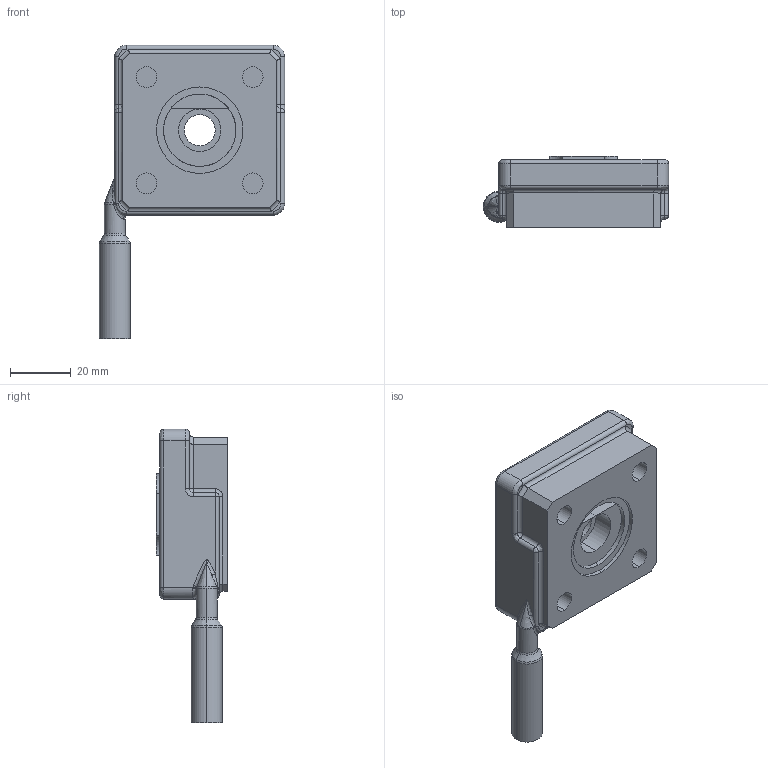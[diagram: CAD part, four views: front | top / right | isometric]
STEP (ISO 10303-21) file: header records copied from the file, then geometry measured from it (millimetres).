
FILE_DESCRIPTION (( 'STEP AP203' ), '1' );
FILE_NAME ('1007059.STEP', '2016-11-15T16:10:35', ( '' ), ( '' ), 'SwSTEP 2.0', 'SolidWorks 2014', '' );
FILE_SCHEMA (( 'CONFIG_CONTROL_DESIGN' ));
Length unit declared in the file: inch
Products named in the file (1): 1007059
Bounding box: 60.96 x 23.37 x 96.52 mm (x, y, z)
Volume: 63428.3 mm3; surface area: 13926.4 mm2
Topology: 1 solids, 1 shells, 122 faces, 278 edges, 162 vertices
Faces by surface type: cylinder 53, plane 33, bspline 32, cone 4
Entity records: 4398 total; most frequent: CARTESIAN_POINT 1738, ORIENTED_EDGE 548, DIRECTION 532, EDGE_CURVE 274, AXIS2_PLACEMENT_3D 208, VERTEX_POINT 162, EDGE_LOOP 132, ADVANCED_FACE 122
